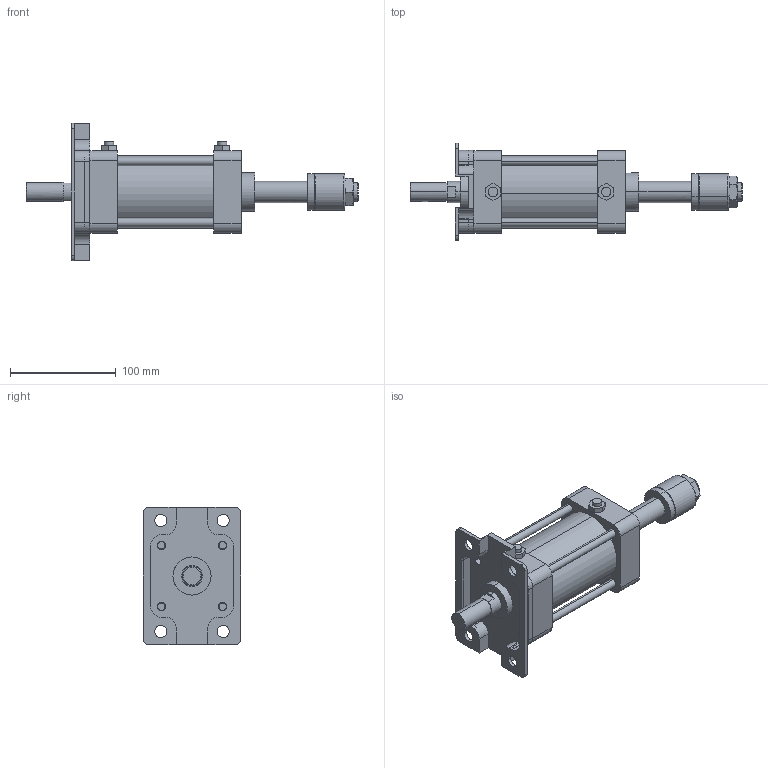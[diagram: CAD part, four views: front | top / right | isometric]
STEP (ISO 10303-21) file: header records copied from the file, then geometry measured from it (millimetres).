
FILE_DESCRIPTION (( 'STEP AP203' ), '1' );
FILE_NAME ('KGA7-63#-50-A.STEP', '2016-04-14T07:51:21', ( '' ), ( '' ), 'SwSTEP 2.0', 'SolidWorks 2014', '' );
FILE_SCHEMA (( 'CONFIG_CONTROL_DESIGN' ));
Length unit declared in the file: millimetre
Products named in the file (9): KGA7-50(63)-Turn; KGLH2-63-50; K#7-63-50-After; K-63-AB; KGA7-63#-50-A
Assembly tree (18 placements, depth 2):
  KGA7-63#-50-A
    K#7-63-50-After
    KGLH2-63-50
    (unnamed)
    (unnamed)  x4
    (unnamed)  x8
    K-63-AB
    KGA7-50(63)-Turn
    (unnamed)
Bounding box: 314 x 92 x 130 mm (x, y, z)
Volume: 714739.7 mm3; surface area: 167897 mm2
Topology: 18 solids, 18 shells, 437 faces, 1062 edges, 680 vertices
Faces by surface type: plane 189, cylinder 174, torus 46, cone 28
Entity records: 12036 total; most frequent: CARTESIAN_POINT 2193, DIRECTION 1892, ORIENTED_EDGE 1744, EDGE_CURVE 872, AXIS2_PLACEMENT_3D 708, VERTEX_POINT 570, LINE 476, VECTOR 476
